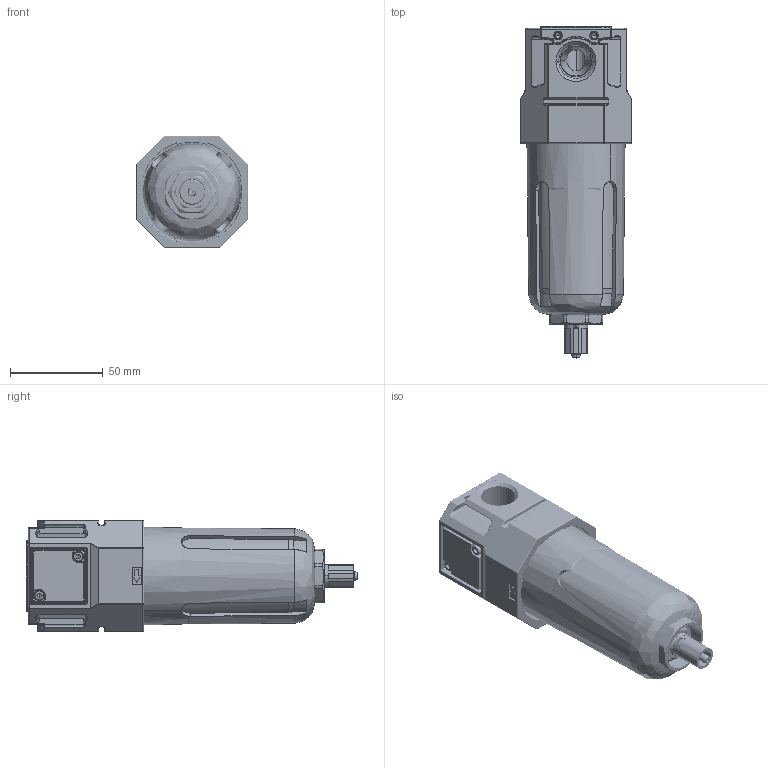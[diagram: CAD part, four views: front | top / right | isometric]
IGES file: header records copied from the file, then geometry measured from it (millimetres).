
Start section: SolidWorks IGES file using analytic representation for surfaces
Bounding box: 60 x 179.1 x 60 mm (x, y, z)
Surface area: 118134.3 mm2 (no closed solid volume)
Topology: 0 solids, 0 shells, 2327 faces, 23687 edges, 23517 vertices
Faces by surface type: revolution 1240, bspline 1087
